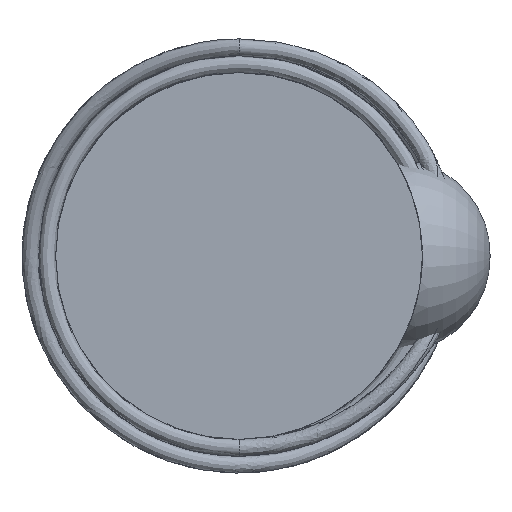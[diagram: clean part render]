
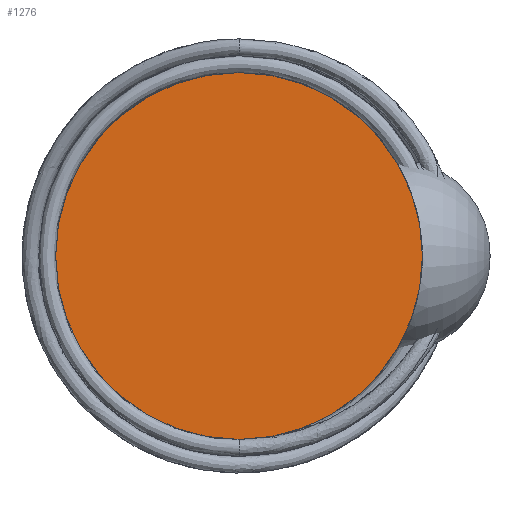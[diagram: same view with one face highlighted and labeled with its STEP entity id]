
A CAD part, left-side view. The second image highlights one B-rep face of the part: STEP entity #1276.
In plain terms, the highlighted planar face has unit normal (-1, 0, 0).
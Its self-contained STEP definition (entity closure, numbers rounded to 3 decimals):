
#247 = FACE_OUTER_BOUND ( 'NONE', #8174, .T. ) ;
#448 = DIRECTION ( 'NONE',  ( 0., -1., 0. ) ) ;
#1142 = ORIENTED_EDGE ( 'NONE', *, *, #6180, .F. ) ;
#1276 = ADVANCED_FACE ( 'NONE', ( #247 ), #8489, .T. ) ;
#3576 = AXIS2_PLACEMENT_3D ( 'NONE', #9001, #3986, #448 ) ;
#3692 = CARTESIAN_POINT ( 'NONE',  ( -3.625, 0., 0.95 ) ) ;
#3757 = AXIS2_PLACEMENT_3D ( 'NONE', #6885, #3931, #8915 ) ;
#3931 = DIRECTION ( 'NONE',  ( 1., 0., 0. ) ) ;
#3986 = DIRECTION ( 'NONE',  ( 1., 0., 0. ) ) ;
#3989 = AXIS2_PLACEMENT_3D ( 'NONE', #7908, #6474, #7842 ) ;
#4317 = VERTEX_POINT ( 'NONE', #3692 ) ;
#4976 = CARTESIAN_POINT ( 'NONE',  ( -3.625, 0., -0.95 ) ) ;
#6130 = EDGE_CURVE ( 'NONE', #7104, #4317, #8514, .T. ) ;
#6180 = EDGE_CURVE ( 'NONE', #4317, #7104, #6750, .T. ) ;
#6474 = DIRECTION ( 'NONE',  ( -1., 0., 0. ) ) ;
#6750 = CIRCLE ( 'NONE', #3576, 0.95 ) ;
#6885 = CARTESIAN_POINT ( 'NONE',  ( -3.625, 0., 0. ) ) ;
#7104 = VERTEX_POINT ( 'NONE', #4976 ) ;
#7842 = DIRECTION ( 'NONE',  ( 0., -1., 0. ) ) ;
#7908 = CARTESIAN_POINT ( 'NONE',  ( -3.625, 1.92, -1.129 ) ) ;
#8174 = EDGE_LOOP ( 'NONE', ( #8606, #1142 ) ) ;
#8489 = PLANE ( 'NONE',  #3989 ) ;
#8514 = CIRCLE ( 'NONE', #3757, 0.95 ) ;
#8606 = ORIENTED_EDGE ( 'NONE', *, *, #6130, .F. ) ;
#8915 = DIRECTION ( 'NONE',  ( 0., -1., 0. ) ) ;
#9001 = CARTESIAN_POINT ( 'NONE',  ( -3.625, 0., 0. ) ) ;
